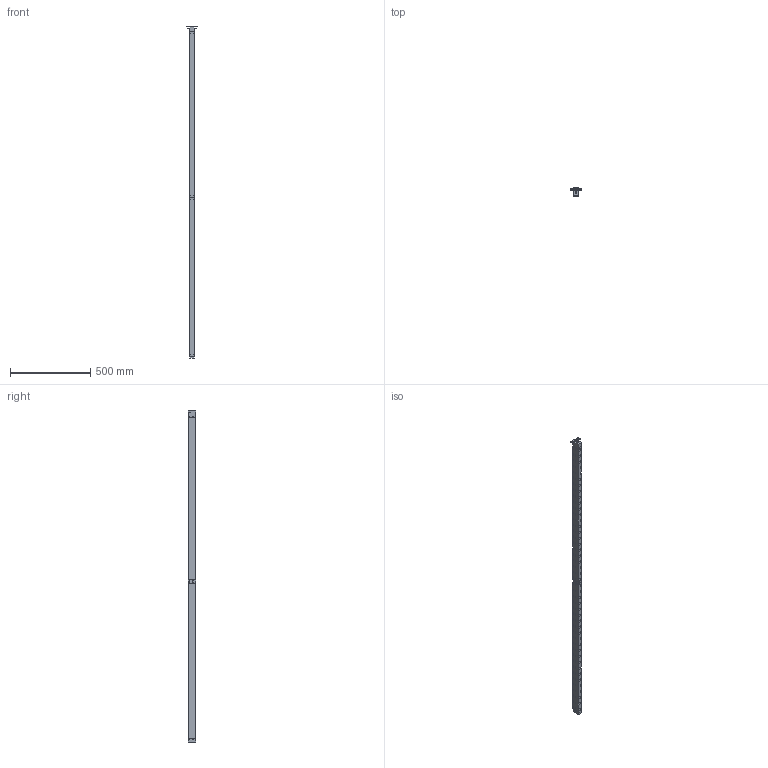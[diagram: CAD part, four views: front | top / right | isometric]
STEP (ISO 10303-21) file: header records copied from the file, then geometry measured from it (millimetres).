
FILE_DESCRIPTION(/* description */ ('DIE LIFTER'),/* implementation_level */ '2;1');
FILE_NAME(/* name */ 'S:\EASCN Vault\Designs\Standard Part\DIE LIFTERS\EHB\EHB- 3D step\EHB28 - 3D step complete serie\EHB28-45.stp',/* time_stamp */ '2019-11-27T14:26:33+08:00',/* author */ ('yue.yang'),/* organization */ (''),/* preprocessor_version */ 'ST-DEVELOPER v17',/* originating_system */ 'Autodesk Inventor 2019',/* authorisation */ '');
FILE_SCHEMA (('AUTOMOTIVE_DESIGN { 1 0 10303 214 3 1 1 }'));
Length unit declared in the file: millimetre
Products named in the file (2): EHB28-45; EHB28-45_Substitute_1
Assembly tree (1 placements, depth 2):
  EHB28-45
    EHB28-45_Substitute_1
Bounding box: 70 x 47.8 x 2074 mm (x, y, z)
Volume: 2327463.9 mm3; surface area: 589672.2 mm2
Topology: 48 solids, 48 shells, 1258 faces, 3412 edges, 2446 vertices
Faces by surface type: plane 512, cylinder 400, cone 162, torus 139, sphere 45
Full cylindrical faces by diameter (mm): 3 x3, 5 x14, 5.5 x2, 6 x50, 6.5 x3, 6.647 x4, 7.5 x1, 10 x5, 10.5 x1, 11.445 x1, 12 x3, 16 x45, 20 x45, 21.5 x45, 24.05 x45, 24.2 x64
Entity records: 47409 total; most frequent: CARTESIAN_POINT 12187, DIRECTION 7615, ORIENTED_EDGE 6796, EDGE_CURVE 3398, AXIS2_PLACEMENT_3D 3292, VERTEX_POINT 2446, CIRCLE 2031, EDGE_LOOP 1622
